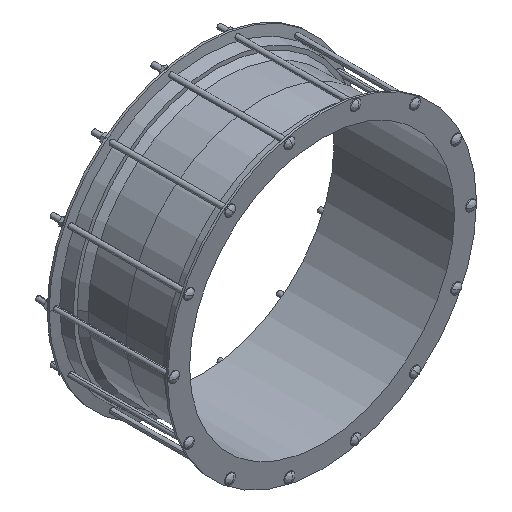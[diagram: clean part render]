
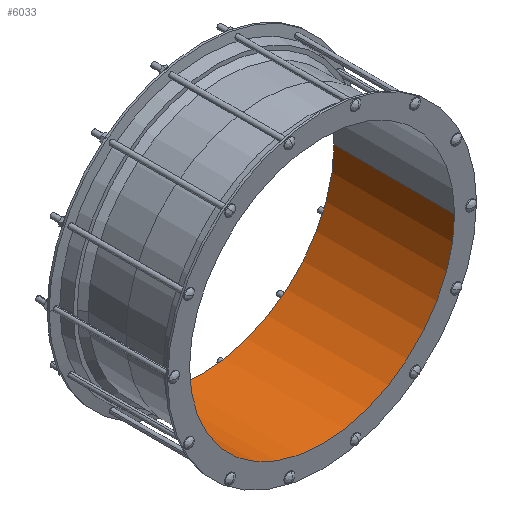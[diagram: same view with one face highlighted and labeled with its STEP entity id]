
A CAD part, isometric view. The second image highlights one B-rep face of the part: STEP entity #6033.
In plain terms, the highlighted cylindrical face has radius 332 mm (diameter 664 mm), a partial arc.
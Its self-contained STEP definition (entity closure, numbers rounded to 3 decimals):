
#2047=CARTESIAN_POINT('',(0.,151.,0.));
#2048=DIRECTION('',(0.,-1.,0.));
#2049=DIRECTION('',(-1.,0.,0.));
#2050=AXIS2_PLACEMENT_3D('',#2047,#2048,#2049);
#2197=CARTESIAN_POINT('',(0.,-151.,0.));
#2198=DIRECTION('',(0.,-1.,0.));
#2199=DIRECTION('',(-1.,0.,0.));
#2200=AXIS2_PLACEMENT_3D('',#2197,#2198,#2199);
#2202=DIRECTION('',(0.,1.,0.));
#2203=VECTOR('',#2202,302.);
#2204=CARTESIAN_POINT('',(-332.,-151.,0.));
#2205=LINE('',#2204,#2203);
#2211=DIRECTION('',(0.,1.,0.));
#2212=VECTOR('',#2211,302.);
#2213=CARTESIAN_POINT('',(332.,-151.,0.));
#2214=LINE('',#2213,#2212);
#4482=CARTESIAN_POINT('',(-332.,-151.,0.));
#4483=CARTESIAN_POINT('',(-332.,151.,0.));
#4484=VERTEX_POINT('',#4482);
#4485=VERTEX_POINT('',#4483);
#4500=CARTESIAN_POINT('',(332.,-151.,0.));
#4501=CARTESIAN_POINT('',(332.,151.,0.));
#4502=VERTEX_POINT('',#4500);
#4503=VERTEX_POINT('',#4501);
#6019=CARTESIAN_POINT('',(0.,166.1,0.));
#6020=DIRECTION('',(0.,-1.,0.));
#6021=DIRECTION('',(-1.,0.,0.));
#6022=AXIS2_PLACEMENT_3D('',#6019,#6020,#6021);
#6023=CYLINDRICAL_SURFACE('',#6022,332.);
#6025=ORIENTED_EDGE('',*,*,#6024,.T.);
#6026=ORIENTED_EDGE('',*,*,#5929,.T.);
#6028=ORIENTED_EDGE('',*,*,#6027,.F.);
#6030=ORIENTED_EDGE('',*,*,#6029,.F.);
#6031=EDGE_LOOP('',(#6025,#6026,#6028,#6030));
#6032=FACE_OUTER_BOUND('',#6031,.F.);
#6033=ADVANCED_FACE('',(#6032),#6023,.F.);
#2051=CIRCLE('',#2050,332.);
#2201=CIRCLE('',#2200,332.);
#5929=EDGE_CURVE('',#4485,#4503,#2051,.T.);
#6024=EDGE_CURVE('',#4484,#4485,#2205,.T.);
#6027=EDGE_CURVE('',#4502,#4503,#2214,.T.);
#6029=EDGE_CURVE('',#4484,#4502,#2201,.T.);
